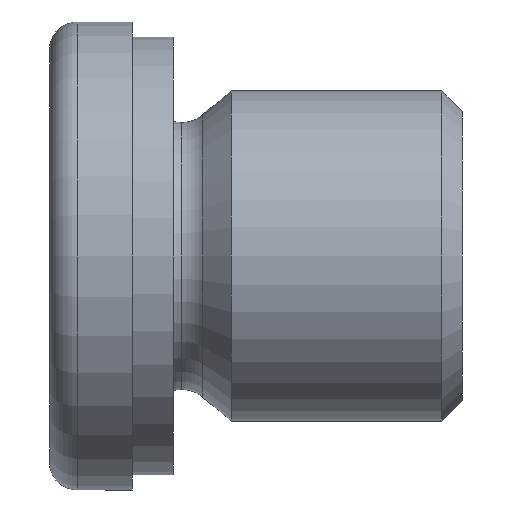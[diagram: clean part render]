
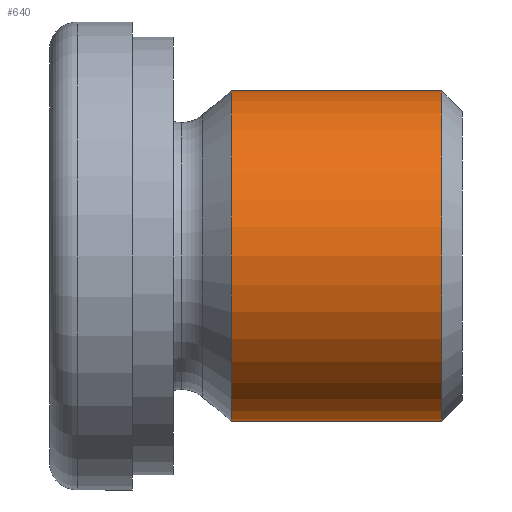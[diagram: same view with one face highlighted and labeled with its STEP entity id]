
A CAD part, left-side view. The second image highlights one B-rep face of the part: STEP entity #640.
In plain terms, the highlighted cylindrical face has radius 6 mm (diameter 12 mm), a partial arc.
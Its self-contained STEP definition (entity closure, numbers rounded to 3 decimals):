
#50 = VERTEX_POINT ( 'NONE', #304 ) ;
#78 = AXIS2_PLACEMENT_3D ( 'NONE', #108, #695, #778 ) ;
#97 = VECTOR ( 'NONE', #243, 1000. ) ;
#108 = CARTESIAN_POINT ( 'NONE',  ( 0., 0., 0. ) ) ;
#123 = DIRECTION ( 'NONE',  ( 0., 1., 0. ) ) ;
#128 = CARTESIAN_POINT ( 'NONE',  ( 0., 0., -6. ) ) ;
#131 = ORIENTED_EDGE ( 'NONE', *, *, #451, .F. ) ;
#193 = DIRECTION ( 'NONE',  ( 0., 0., 1. ) ) ;
#243 = DIRECTION ( 'NONE',  ( 0., 1., 0. ) ) ;
#301 = VERTEX_POINT ( 'NONE', #329 ) ;
#304 = CARTESIAN_POINT ( 'NONE',  ( 0., 0.75, 6. ) ) ;
#314 = LINE ( 'NONE', #833, #97 ) ;
#317 = AXIS2_PLACEMENT_3D ( 'NONE', #630, #781, #193 ) ;
#322 = CYLINDRICAL_SURFACE ( 'NONE', #78, 6. ) ;
#324 = ORIENTED_EDGE ( 'NONE', *, *, #853, .F. ) ;
#329 = CARTESIAN_POINT ( 'NONE',  ( 0., 0.75, -6. ) ) ;
#354 = CARTESIAN_POINT ( 'NONE',  ( 0., 8.404, -6. ) ) ;
#407 = EDGE_CURVE ( 'NONE', #301, #50, #924, .T. ) ;
#408 = VERTEX_POINT ( 'NONE', #354 ) ;
#441 = ORIENTED_EDGE ( 'NONE', *, *, #574, .T. ) ;
#451 = EDGE_CURVE ( 'NONE', #301, #408, #713, .T. ) ;
#480 = CARTESIAN_POINT ( 'NONE',  ( 0., 0.75, 0. ) ) ;
#496 = VERTEX_POINT ( 'NONE', #592 ) ;
#520 = EDGE_LOOP ( 'NONE', ( #131, #789, #441, #324 ) ) ;
#541 = FACE_OUTER_BOUND ( 'NONE', #520, .T. ) ;
#574 = EDGE_CURVE ( 'NONE', #50, #496, #314, .T. ) ;
#592 = CARTESIAN_POINT ( 'NONE',  ( 0., 8.404, 6. ) ) ;
#624 = VECTOR ( 'NONE', #718, 1000. ) ;
#630 = CARTESIAN_POINT ( 'NONE',  ( 0., 8.404, 0. ) ) ;
#640 = ADVANCED_FACE ( 'NONE', ( #541 ), #322, .T. ) ;
#695 = DIRECTION ( 'NONE',  ( 0., 1., 0. ) ) ;
#713 = LINE ( 'NONE', #128, #624 ) ;
#718 = DIRECTION ( 'NONE',  ( 0., 1., 0. ) ) ;
#748 = AXIS2_PLACEMENT_3D ( 'NONE', #480, #123, #933 ) ;
#778 = DIRECTION ( 'NONE',  ( 0., 0., 1. ) ) ;
#781 = DIRECTION ( 'NONE',  ( 0., 1., 0. ) ) ;
#782 = CIRCLE ( 'NONE', #317, 6. ) ;
#789 = ORIENTED_EDGE ( 'NONE', *, *, #407, .T. ) ;
#833 = CARTESIAN_POINT ( 'NONE',  ( 0., 0., 6. ) ) ;
#853 = EDGE_CURVE ( 'NONE', #408, #496, #782, .T. ) ;
#924 = CIRCLE ( 'NONE', #748, 6. ) ;
#933 = DIRECTION ( 'NONE',  ( 0., 0., 1. ) ) ;
